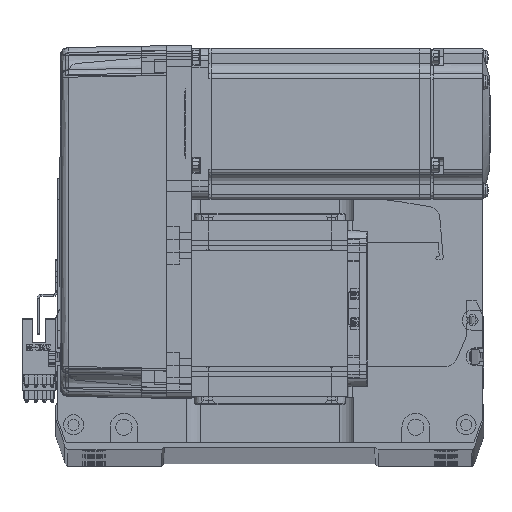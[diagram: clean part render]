
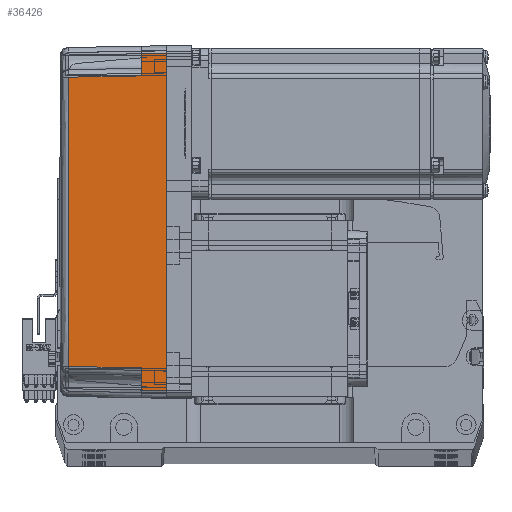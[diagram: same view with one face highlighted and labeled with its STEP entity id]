
A CAD part, top view. The second image highlights one B-rep face of the part: STEP entity #36426.
In plain terms, the highlighted planar face has unit normal (-0.018, 0, 1) as drawn and (0, 1, 0.017) by its records, which use the part's own axes.
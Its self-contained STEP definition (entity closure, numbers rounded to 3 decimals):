
#1040 = DIRECTION ( 'NONE',  ( 0.017, -0.017, 1. ) ) ;
#1299 = DIRECTION ( 'NONE',  ( 1., 0., 0. ) ) ;
#2803 = DIRECTION ( 'NONE',  ( 0.017, 0.017, -1. ) ) ;
#3558 = EDGE_CURVE ( 'NONE', #64531, #56092, #51598, .T. ) ;
#4512 = DIRECTION ( 'NONE',  ( -0.017, -0.017, 1. ) ) ;
#4550 = ORIENTED_EDGE ( 'NONE', *, *, #19574, .F. ) ;
#4996 = DIRECTION ( 'NONE',  ( 0., 1., 0.017 ) ) ;
#5249 = CARTESIAN_POINT ( 'NONE',  ( 67., 36., 0. ) ) ;
#5338 = CARTESIAN_POINT ( 'NONE',  ( -66.826, 35.825, 10. ) ) ;
#5666 = VERTEX_POINT ( 'NONE', #23196 ) ;
#6655 = VERTEX_POINT ( 'NONE', #5338 ) ;
#7153 = B_SPLINE_CURVE_WITH_KNOTS ( 'NONE', 3,
 ( #31654, #38395, #43144, #42894 ),
 .UNSPECIFIED., .F., .F.,
 ( 4, 4 ),
 ( 0., 1. ),
 .UNSPECIFIED. ) ;
#7225 = VECTOR ( 'NONE', #26536, 1000. ) ;
#8073 = CARTESIAN_POINT ( 'NONE',  ( 70., 35.825, 10. ) ) ;
#8263 = FACE_OUTER_BOUND ( 'NONE', #32989, .T. ) ;
#8394 = VECTOR ( 'NONE', #62249, 1000. ) ;
#8862 = ORIENTED_EDGE ( 'NONE', *, *, #12802, .T. ) ;
#9798 = CARTESIAN_POINT ( 'NONE',  ( 67.001, 36.001, -0.052 ) ) ;
#11831 = VECTOR ( 'NONE', #13583, 1000. ) ;
#12802 = EDGE_CURVE ( 'NONE', #5666, #13881, #7153, .T. ) ;
#13583 = DIRECTION ( 'NONE',  ( 1., 0., 0. ) ) ;
#13881 = VERTEX_POINT ( 'NONE', #40604 ) ;
#14380 = CARTESIAN_POINT ( 'NONE',  ( -58., 35.825, 10. ) ) ;
#14755 = EDGE_CURVE ( 'NONE', #6655, #69977, #71800, .T. ) ;
#15013 = CARTESIAN_POINT ( 'NONE',  ( 66.826, 35.825, 10. ) ) ;
#16256 = ORIENTED_EDGE ( 'NONE', *, *, #58555, .T. ) ;
#19394 = VECTOR ( 'NONE', #4512, 1000. ) ;
#19574 = EDGE_CURVE ( 'NONE', #20791, #64531, #27828, .T. ) ;
#19653 = EDGE_CURVE ( 'NONE', #37977, #56092, #65414, .T. ) ;
#19965 = AXIS2_PLACEMENT_3D ( 'NONE', #55935, #4996, #56407 ) ;
#20055 = ORIENTED_EDGE ( 'NONE', *, *, #19653, .T. ) ;
#20180 = EDGE_CURVE ( 'NONE', #69977, #5666, #68865, .T. ) ;
#20791 = VERTEX_POINT ( 'NONE', #38150 ) ;
#23196 = CARTESIAN_POINT ( 'NONE',  ( -57.495, 35.32, 38.985 ) ) ;
#26407 = LINE ( 'NONE', #31223, #72550 ) ;
#26536 = DIRECTION ( 'NONE',  ( 0.017, -0.017, 1. ) ) ;
#27828 = LINE ( 'NONE', #35984, #56448 ) ;
#28755 = CARTESIAN_POINT ( 'NONE',  ( -67., 36., 0. ) ) ;
#31223 = CARTESIAN_POINT ( 'NONE',  ( 57.495, 35.32, 38.985 ) ) ;
#31654 = CARTESIAN_POINT ( 'NONE',  ( -57.495, 35.32, 38.985 ) ) ;
#32989 = EDGE_LOOP ( 'NONE', ( #54553, #54052, #49867, #8862, #16256, #20055, #62781, #4550 ) ) ;
#35984 = CARTESIAN_POINT ( 'NONE',  ( 0., 36., 0. ) ) ;
#36426 = ADVANCED_FACE ( 'NONE', ( #8263 ), #44692, .T. ) ;
#37977 = VERTEX_POINT ( 'NONE', #38463 ) ;
#38150 = CARTESIAN_POINT ( 'NONE',  ( -67., 36., 0. ) ) ;
#38395 = CARTESIAN_POINT ( 'NONE',  ( -19.165, 35.316, 39.181 ) ) ;
#38463 = CARTESIAN_POINT ( 'NONE',  ( 58., 35.825, 10. ) ) ;
#40604 = CARTESIAN_POINT ( 'NONE',  ( 57.495, 35.32, 38.985 ) ) ;
#40740 = EDGE_CURVE ( 'NONE', #20791, #6655, #62018, .T. ) ;
#42894 = CARTESIAN_POINT ( 'NONE',  ( 57.495, 35.32, 38.985 ) ) ;
#43144 = CARTESIAN_POINT ( 'NONE',  ( 19.165, 35.316, 39.181 ) ) ;
#44692 = PLANE ( 'NONE',  #19965 ) ;
#45297 = CARTESIAN_POINT ( 'NONE',  ( 70., 35.825, 10. ) ) ;
#46880 = VECTOR ( 'NONE', #1040, 1000. ) ;
#49867 = ORIENTED_EDGE ( 'NONE', *, *, #20180, .T. ) ;
#51598 = LINE ( 'NONE', #9798, #19394 ) ;
#54052 = ORIENTED_EDGE ( 'NONE', *, *, #14755, .T. ) ;
#54553 = ORIENTED_EDGE ( 'NONE', *, *, #40740, .T. ) ;
#55612 = CARTESIAN_POINT ( 'NONE',  ( -58., 35.825, 10. ) ) ;
#55935 = CARTESIAN_POINT ( 'NONE',  ( 70., 36., 0. ) ) ;
#56092 = VERTEX_POINT ( 'NONE', #15013 ) ;
#56407 = DIRECTION ( 'NONE',  ( 0., -0.017, 1. ) ) ;
#56448 = VECTOR ( 'NONE', #1299, 1000. ) ;
#58555 = EDGE_CURVE ( 'NONE', #13881, #37977, #26407, .T. ) ;
#62018 = LINE ( 'NONE', #28755, #46880 ) ;
#62249 = DIRECTION ( 'NONE',  ( 1., 0., 0. ) ) ;
#62781 = ORIENTED_EDGE ( 'NONE', *, *, #3558, .F. ) ;
#64531 = VERTEX_POINT ( 'NONE', #5249 ) ;
#65414 = LINE ( 'NONE', #8073, #11831 ) ;
#68865 = LINE ( 'NONE', #14380, #7225 ) ;
#69977 = VERTEX_POINT ( 'NONE', #55612 ) ;
#71800 = LINE ( 'NONE', #45297, #8394 ) ;
#72550 = VECTOR ( 'NONE', #2803, 1000. ) ;
